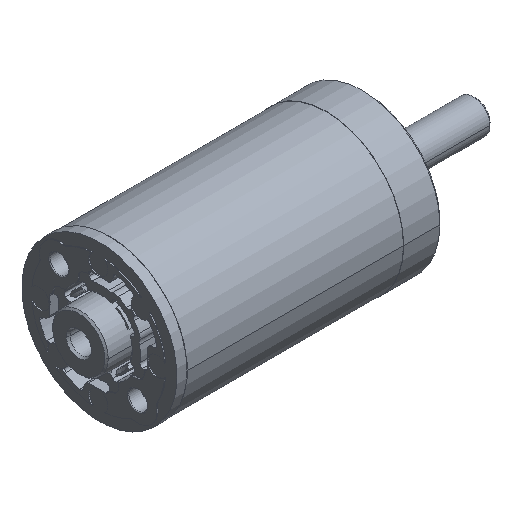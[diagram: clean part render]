
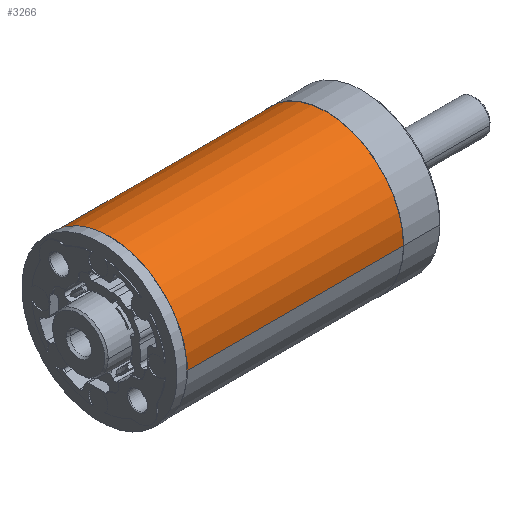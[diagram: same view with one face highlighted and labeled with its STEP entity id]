
A CAD part, isometric view. The second image highlights one B-rep face of the part: STEP entity #3266.
In plain terms, the highlighted cylindrical face has radius 13.925 mm (diameter 27.85 mm), a partial arc.
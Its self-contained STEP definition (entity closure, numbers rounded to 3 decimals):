
#3054=CARTESIAN_POINT('',(0.,0.,0.));
#3055=DIRECTION('',(-1.,0.,0.));
#3056=DIRECTION('',(0.,1.,0.));
#3057=AXIS2_PLACEMENT_3D('',#3054,#3055,#3056);
#3086=CARTESIAN_POINT('',(38.95,0.,0.));
#3087=DIRECTION('',(-1.,0.,0.));
#3088=DIRECTION('',(0.,1.,0.));
#3089=AXIS2_PLACEMENT_3D('',#3086,#3087,#3088);
#3094=DIRECTION('',(-1.,0.,0.));
#3095=VECTOR('',#3094,38.95);
#3096=CARTESIAN_POINT('',(38.95,13.925,0.));
#3097=LINE('',#3096,#3095);
#3109=DIRECTION('',(-1.,0.,0.));
#3110=VECTOR('',#3109,38.95);
#3111=CARTESIAN_POINT('',(38.95,-13.925,0.));
#3112=LINE('',#3111,#3110);
#3210=CARTESIAN_POINT('',(38.95,13.925,0.));
#3211=CARTESIAN_POINT('',(0.,13.925,0.));
#3212=VERTEX_POINT('',#3210);
#3213=VERTEX_POINT('',#3211);
#3214=CARTESIAN_POINT('',(38.95,-13.925,0.));
#3215=CARTESIAN_POINT('',(0.,-13.925,0.));
#3216=VERTEX_POINT('',#3214);
#3217=VERTEX_POINT('',#3215);
#3252=CARTESIAN_POINT('',(40.898,0.,0.));
#3253=DIRECTION('',(-1.,0.,0.));
#3254=DIRECTION('',(0.,1.,0.));
#3255=AXIS2_PLACEMENT_3D('',#3252,#3253,#3254);
#3256=CYLINDRICAL_SURFACE('',#3255,13.925);
#3258=ORIENTED_EDGE('',*,*,#3257,.T.);
#3259=ORIENTED_EDGE('',*,*,#3239,.T.);
#3261=ORIENTED_EDGE('',*,*,#3260,.F.);
#3263=ORIENTED_EDGE('',*,*,#3262,.F.);
#3264=EDGE_LOOP('',(#3258,#3259,#3261,#3263));
#3265=FACE_OUTER_BOUND('',#3264,.F.);
#3058=CIRCLE('',#3057,13.925);
#3090=CIRCLE('',#3089,13.925);
#3239=EDGE_CURVE('',#3213,#3217,#3058,.T.);
#3257=EDGE_CURVE('',#3212,#3213,#3097,.T.);
#3260=EDGE_CURVE('',#3216,#3217,#3112,.T.);
#3262=EDGE_CURVE('',#3212,#3216,#3090,.T.);
#3266=ADVANCED_FACE('',(#3265),#3256,.T.);
